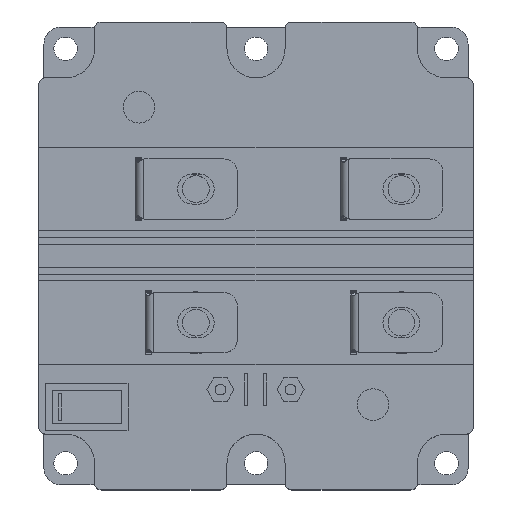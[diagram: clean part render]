
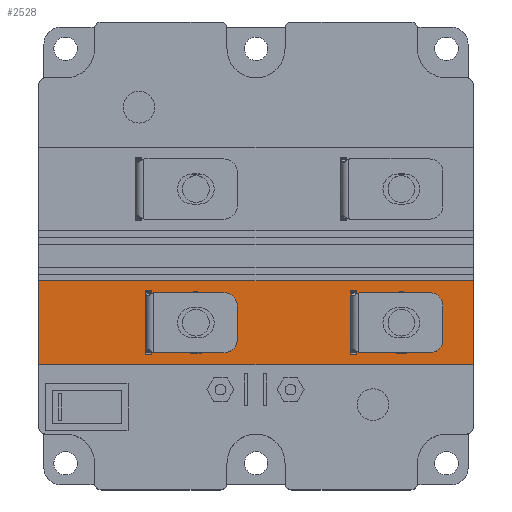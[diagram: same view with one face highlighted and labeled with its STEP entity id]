
A CAD part, top view. The second image highlights one B-rep face of the part: STEP entity #2528.
In plain terms, the highlighted planar face has unit normal (0, 0, 1).
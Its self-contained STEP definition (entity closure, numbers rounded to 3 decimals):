
#2270 = EDGE_CURVE ( 'NONE', #2411, #2409, #11955, .T. ) ;
#2328 = EDGE_CURVE ( 'NONE', #13318, #13318, #8147, .T. ) ;
#2346 = VERTEX_POINT ( 'NONE', #8214 ) ;
#2369 = VERTEX_POINT ( 'NONE', #8195 ) ;
#2379 = EDGE_CURVE ( 'NONE', #13309, #13309, #8183, .T. ) ;
#2384 = EDGE_CURVE ( 'NONE', #2369, #2390, #8171, .T. ) ;
#2390 = VERTEX_POINT ( 'NONE', #8164 ) ;
#2409 = VERTEX_POINT ( 'NONE', #8300 ) ;
#2411 = VERTEX_POINT ( 'NONE', #8165 ) ;
#2421 = EDGE_CURVE ( 'NONE', #2390, #2346, #8335, .T. ) ;
#2488 = ORIENTED_EDGE ( 'NONE', *, *, #2379, .F. ) ;
#2491 = EDGE_CURVE ( 'NONE', #4417, #4474, #8248, .T. ) ;
#2494 = EDGE_LOOP ( 'NONE', ( #2488 ) ) ;
#2495 = VERTEX_POINT ( 'NONE', #8106 ) ;
#2499 = ORIENTED_EDGE ( 'NONE', *, *, #2328, .F. ) ;
#2503 = EDGE_LOOP ( 'NONE', ( #2516, #2607, #2624, #2603 ) ) ;
#2509 = EDGE_CURVE ( 'NONE', #2495, #2411, #8238, .T. ) ;
#2516 = ORIENTED_EDGE ( 'NONE', *, *, #2637, .F. ) ;
#2528 = ADVANCED_FACE ( 'NONE', ( #8355, #8401, #8357, #8353, #8469 ), #8468, .T. ) ;
#2529 = EDGE_CURVE ( 'NONE', #4687, #4194, #8380, .T. ) ;
#2531 = ORIENTED_EDGE ( 'NONE', *, *, #4125, .T. ) ;
#2533 = VERTEX_POINT ( 'NONE', #8384 ) ;
#2536 = EDGE_CURVE ( 'NONE', #2409, #2616, #8382, .T. ) ;
#2544 = ORIENTED_EDGE ( 'NONE', *, *, #2529, .T. ) ;
#2547 = EDGE_LOOP ( 'NONE', ( #2544, #2531, #2565, #2550 ) ) ;
#2550 = ORIENTED_EDGE ( 'NONE', *, *, #4495, .T. ) ;
#2565 = ORIENTED_EDGE ( 'NONE', *, *, #2491, .T. ) ;
#2569 = ORIENTED_EDGE ( 'NONE', *, *, #2651, .F. ) ;
#2571 = ORIENTED_EDGE ( 'NONE', *, *, #2270, .F. ) ;
#2579 = EDGE_LOOP ( 'NONE', ( #2499 ) ) ;
#2588 = EDGE_CURVE ( 'NONE', #2533, #2369, #8438, .T. ) ;
#2600 = EDGE_LOOP ( 'NONE', ( #2569, #2614, #2571, #2606 ) ) ;
#2603 = ORIENTED_EDGE ( 'NONE', *, *, #2588, .F. ) ;
#2606 = ORIENTED_EDGE ( 'NONE', *, *, #2509, .F. ) ;
#2607 = ORIENTED_EDGE ( 'NONE', *, *, #2421, .F. ) ;
#2614 = ORIENTED_EDGE ( 'NONE', *, *, #2536, .F. ) ;
#2616 = VERTEX_POINT ( 'NONE', #8395 ) ;
#2624 = ORIENTED_EDGE ( 'NONE', *, *, #2384, .F. ) ;
#2637 = EDGE_CURVE ( 'NONE', #2346, #2533, #8227, .T. ) ;
#2651 = EDGE_CURVE ( 'NONE', #2616, #2495, #8252, .T. ) ;
#4125 = EDGE_CURVE ( 'NONE', #4194, #4417, #11043, .T. ) ;
#4194 = VERTEX_POINT ( 'NONE', #12731 ) ;
#4417 = VERTEX_POINT ( 'NONE', #17670 ) ;
#4474 = VERTEX_POINT ( 'NONE', #13909 ) ;
#4495 = EDGE_CURVE ( 'NONE', #4474, #4687, #13889, .T. ) ;
#4687 = VERTEX_POINT ( 'NONE', #14495 ) ;
#8106 = CARTESIAN_POINT ( 'NONE',  ( -223.597, -227.597, -2. ) ) ;
#8133 = DIRECTION ( 'NONE',  ( 0., -1., 0. ) ) ;
#8134 = DIRECTION ( 'NONE',  ( 0., 0., 1. ) ) ;
#8147 = CIRCLE ( 'NONE', #8149, 9.25 ) ;
#8149 = AXIS2_PLACEMENT_3D ( 'NONE', #8156, #8134, #8133 ) ;
#8156 = CARTESIAN_POINT ( 'NONE',  ( -208.397, -218.097, -2. ) ) ;
#8164 = CARTESIAN_POINT ( 'NONE',  ( -283.197, -227.597, -2. ) ) ;
#8165 = CARTESIAN_POINT ( 'NONE',  ( -221.697, -227.597, -2. ) ) ;
#8167 = DIRECTION ( 'NONE',  ( 1., 0., 0. ) ) ;
#8168 = VECTOR ( 'NONE', #8167, 1000. ) ;
#8169 = CARTESIAN_POINT ( 'NONE',  ( -285.097, -227.597, -2. ) ) ;
#8171 = LINE ( 'NONE', #8169, #8168 ) ;
#8182 = DIRECTION ( 'NONE',  ( 0., -1., 0. ) ) ;
#8183 = CIRCLE ( 'NONE', #8186, 9.25 ) ;
#8186 = AXIS2_PLACEMENT_3D ( 'NONE', #8190, #8196, #8182 ) ;
#8190 = CARTESIAN_POINT ( 'NONE',  ( -269.897, -218.097, -2. ) ) ;
#8195 = CARTESIAN_POINT ( 'NONE',  ( -285.097, -227.597, -2. ) ) ;
#8196 = DIRECTION ( 'NONE',  ( 0., 0., 1. ) ) ;
#8214 = CARTESIAN_POINT ( 'NONE',  ( -283.197, -208.597, -2. ) ) ;
#8227 = LINE ( 'NONE', #8430, #8455 ) ;
#8233 = VECTOR ( 'NONE', #8424, 1000. ) ;
#8234 = CARTESIAN_POINT ( 'NONE',  ( -223.597, -208.597, -2. ) ) ;
#8235 = DIRECTION ( 'NONE',  ( 1., 0., 0. ) ) ;
#8236 = VECTOR ( 'NONE', #8235, 1000. ) ;
#8237 = CARTESIAN_POINT ( 'NONE',  ( -223.597, -227.597, -2. ) ) ;
#8238 = LINE ( 'NONE', #8237, #8236 ) ;
#8244 = DIRECTION ( 'NONE',  ( -1., 0., 0. ) ) ;
#8245 = VECTOR ( 'NONE', #8244, 1000. ) ;
#8247 = CARTESIAN_POINT ( 'NONE',  ( -186.897, -205.597, -2. ) ) ;
#8248 = LINE ( 'NONE', #8247, #8245 ) ;
#8252 = LINE ( 'NONE', #8234, #8233 ) ;
#8300 = CARTESIAN_POINT ( 'NONE',  ( -221.697, -208.597, -2. ) ) ;
#8332 = DIRECTION ( 'NONE',  ( 0., 1., 0. ) ) ;
#8333 = VECTOR ( 'NONE', #8332, 1000. ) ;
#8334 = CARTESIAN_POINT ( 'NONE',  ( -283.197, -208.597, -2. ) ) ;
#8335 = LINE ( 'NONE', #8334, #8333 ) ;
#8353 = FACE_BOUND ( 'NONE', #2503, .T. ) ;
#8354 = CARTESIAN_POINT ( 'NONE',  ( -186.897, -205.597, -2. ) ) ;
#8355 = FACE_OUTER_BOUND ( 'NONE', #2547, .T. ) ;
#8357 = FACE_BOUND ( 'NONE', #2494, .T. ) ;
#8379 = CARTESIAN_POINT ( 'NONE',  ( -186.897, -230.597, -2. ) ) ;
#8380 = LINE ( 'NONE', #8379, #8387 ) ;
#8381 = DIRECTION ( 'NONE',  ( 0., 0., 1. ) ) ;
#8382 = LINE ( 'NONE', #8441, #8440 ) ;
#8383 = DIRECTION ( 'NONE',  ( 0., -1., 0. ) ) ;
#8384 = CARTESIAN_POINT ( 'NONE',  ( -285.097, -208.597, -2. ) ) ;
#8386 = DIRECTION ( 'NONE',  ( 1., 0., 0. ) ) ;
#8387 = VECTOR ( 'NONE', #8386, 1000. ) ;
#8391 = DIRECTION ( 'NONE',  ( 0., -1., 0. ) ) ;
#8392 = VECTOR ( 'NONE', #8391, 1000. ) ;
#8395 = CARTESIAN_POINT ( 'NONE',  ( -223.597, -208.597, -2. ) ) ;
#8400 = AXIS2_PLACEMENT_3D ( 'NONE', #8354, #8381, #8383 ) ;
#8401 = FACE_BOUND ( 'NONE', #2579, .T. ) ;
#8412 = DIRECTION ( 'NONE',  ( -1., 0., 0. ) ) ;
#8424 = DIRECTION ( 'NONE',  ( 0., -1., 0. ) ) ;
#8430 = CARTESIAN_POINT ( 'NONE',  ( -285.097, -208.597, -2. ) ) ;
#8436 = DIRECTION ( 'NONE',  ( -1., 0., 0. ) ) ;
#8437 = CARTESIAN_POINT ( 'NONE',  ( -285.097, -208.597, -2. ) ) ;
#8438 = LINE ( 'NONE', #8437, #8392 ) ;
#8440 = VECTOR ( 'NONE', #8436, 1000. ) ;
#8441 = CARTESIAN_POINT ( 'NONE',  ( -223.597, -208.597, -2. ) ) ;
#8455 = VECTOR ( 'NONE', #8412, 1000. ) ;
#8468 = PLANE ( 'NONE',  #8400 ) ;
#8469 = FACE_BOUND ( 'NONE', #2600, .T. ) ;
#10956 = VECTOR ( 'NONE', #11055, 1000. ) ;
#10980 = CARTESIAN_POINT ( 'NONE',  ( -186.897, -230.597, -2. ) ) ;
#11043 = LINE ( 'NONE', #10980, #10956 ) ;
#11055 = DIRECTION ( 'NONE',  ( 0., 1., 0. ) ) ;
#11943 = DIRECTION ( 'NONE',  ( 0., 1., 0. ) ) ;
#11944 = VECTOR ( 'NONE', #11943, 1000. ) ;
#11948 = CARTESIAN_POINT ( 'NONE',  ( -221.697, -208.597, -2. ) ) ;
#11955 = LINE ( 'NONE', #11948, #11944 ) ;
#12731 = CARTESIAN_POINT ( 'NONE',  ( -186.897, -230.597, -2. ) ) ;
#13309 = VERTEX_POINT ( 'NONE', #13313 ) ;
#13311 = CARTESIAN_POINT ( 'NONE',  ( -208.397, -227.347, -2. ) ) ;
#13313 = CARTESIAN_POINT ( 'NONE',  ( -269.897, -227.347, -2. ) ) ;
#13318 = VERTEX_POINT ( 'NONE', #13311 ) ;
#13889 = LINE ( 'NONE', #13944, #13906 ) ;
#13905 = DIRECTION ( 'NONE',  ( 0., -1., 0. ) ) ;
#13906 = VECTOR ( 'NONE', #13905, 1000. ) ;
#13909 = CARTESIAN_POINT ( 'NONE',  ( -316.897, -205.597, -2. ) ) ;
#13944 = CARTESIAN_POINT ( 'NONE',  ( -316.897, -230.597, -2. ) ) ;
#14495 = CARTESIAN_POINT ( 'NONE',  ( -316.897, -230.597, -2. ) ) ;
#17670 = CARTESIAN_POINT ( 'NONE',  ( -186.897, -205.597, -2. ) ) ;
